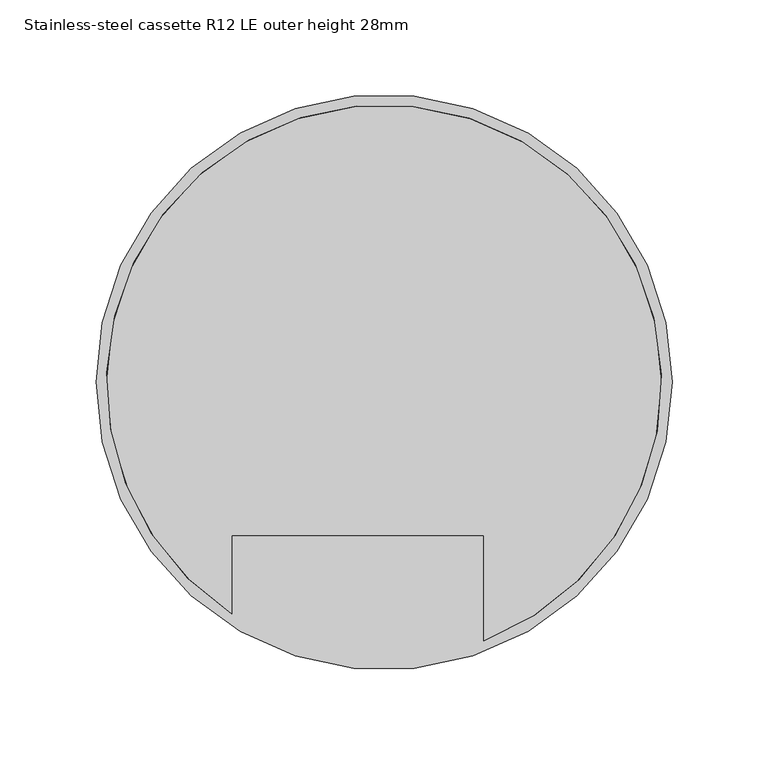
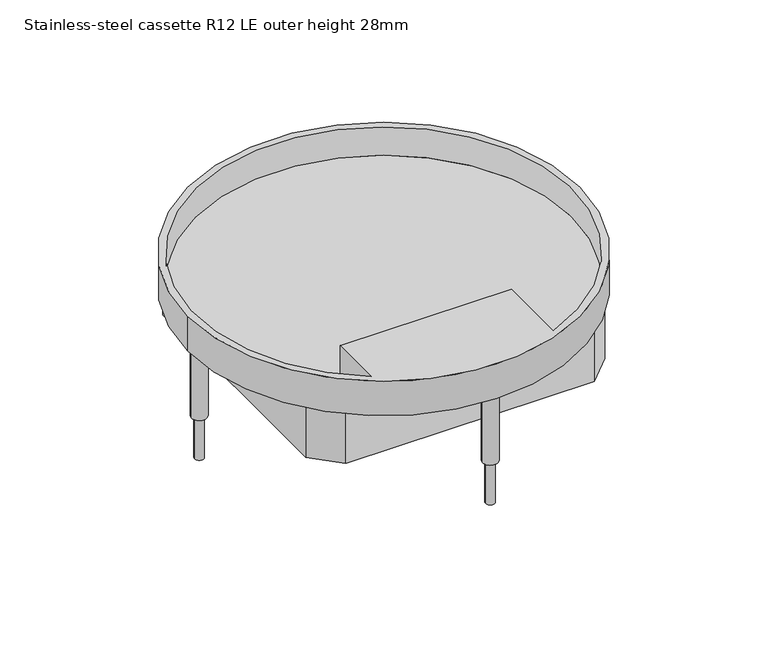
"""IFC4 building model written with IfcOpenShell, lengths in millimetres: proxy geometry, Electrical_Installation_Hager_VE-EE_EKR-Height-adjustable-stainless-steel-cassette-with-square-cable-outlet-for-dry-cleaned-floors : Stainless-steel cassette R12 LE outer height 28mm."""

from ifc_helpers import new_model, si_unit, point, frame, frame_2d, origin, place, context, project, spatial, polyline, circle_curve, trimmed, segment, composite_curve, outline, extrude, source, transform, mapped, element, save
from ifc_brep_helpers import plane_surface, cylinder_surface, revolved_surface, advanced_brep


def stainless_steel_cassette_r12_le_outer_height_28mm_8af35c53(model_context):
    return source(origin(), model_context, "Body", "SolidModel", [
        extrude(outline(composite_curve([segment(trimmed(circle_curve(frame_2d((-141.3, 0.0)), 3.5), [point((-144.8, 0.0))], [point((-137.8, 0.0))], False, "CARTESIAN"), True, "CONTINUOUS"), segment(trimmed(circle_curve(frame_2d((-141.3, 0.0)), 3.5), [point((-137.8, 0.0))], [point((-144.8, 0.0))], False, "CARTESIAN"), True, "CONTINUOUS")], self_intersect=False)), frame((0.0, 0.0, -115.0), z_axis=(0.0, 0.0, 1.0), x_axis=(1.0, 0.0, 0.0)), (0.0, 0.0, 1.0), 89.011943),
        extrude(outline(composite_curve([segment(trimmed(circle_curve(frame_2d((0.0, 141.3)), 3.5), [point((-3.5, 141.3))], [point((3.5, 141.3))], False, "CARTESIAN"), True, "CONTINUOUS"), segment(trimmed(circle_curve(frame_2d((0.0, 141.3)), 3.5), [point((3.5, 141.3))], [point((-3.5, 141.3))], False, "CARTESIAN"), True, "CONTINUOUS")], self_intersect=False)), frame((0.0, 0.0, -115.0), z_axis=(0.0, 0.0, 1.0), x_axis=(1.0, 0.0, 0.0)), (0.0, 0.0, 1.0), 89.011943),
        extrude(outline(composite_curve([segment(trimmed(circle_curve(frame_2d((141.3, 0.0)), 3.548869), [point((137.751131, 0.0))], [point((144.848869, 0.0))], False, "CARTESIAN"), True, "CONTINUOUS"), segment(trimmed(circle_curve(frame_2d((141.3, 0.0)), 3.548869), [point((144.848869, 0.0))], [point((137.751131, 0.0))], False, "CARTESIAN"), True, "CONTINUOUS")], self_intersect=False)), frame((0.0, 0.0, -115.0), z_axis=(0.0, 0.0, 1.0), x_axis=(1.0, 0.0, 0.0)), (0.0, 0.0, 1.0), 89.011943),
        extrude(outline(composite_curve([segment(trimmed(circle_curve(frame_2d((0.0, -141.3)), 3.5), [point((-3.5, -141.3))], [point((3.5, -141.3))], False, "CARTESIAN"), True, "CONTINUOUS"), segment(trimmed(circle_curve(frame_2d((0.0, -141.3)), 3.5), [point((3.5, -141.3))], [point((-3.5, -141.3))], False, "CARTESIAN"), True, "CONTINUOUS")], self_intersect=False)), frame((0.0, 0.0, -115.0), z_axis=(0.0, 0.0, 1.0), x_axis=(1.0, 0.0, 0.0)), (0.0, 0.0, 1.0), 89.011943),
        advanced_brep(
        [(-144.5, 0.0, -20.988057), (-79.2284089, -120.8433251, -20.988057), (-79.2284089, -79.7709238, -20.988057), (51.8974749, -79.7709238, -20.988057), (51.8974749, -134.8588228, -20.988057), (144.5, 0.0, -20.988057), (-150.0, 0.0, -25.988057), (150.0, 0.0, -25.988057), (-150.0, 0.0, 2.011943), (150.0, 0.0, 2.011943), (-79.2284089, -120.8433251, 2.011943), (51.8974749, -134.8588228, 2.011943), (51.8974749, -79.7709238, 2.011943), (-79.2284089, -79.7709238, 2.011943)],
        [
            (0, 1, circle_curve(frame((0.0, 0.0, -20.988057), z_axis=(0.0, 0.0, 1.0), x_axis=(1.0, 0.0, 0.0)), 144.5)),
            (1, 2),
            (2, 3),
            (3, 4),
            (4, 5, circle_curve(frame((0.0, 0.0, -20.988057), z_axis=(0.0, 0.0, 1.0), x_axis=(1.0, 0.0, 0.0)), 144.5)),
            (5, 0, circle_curve(frame((0.0, 0.0, -20.988057), z_axis=(0.0, 0.0, 1.0), x_axis=(1.0, 0.0, 0.0)), 144.5)),
            (6, 7, circle_curve(frame((0.0, 0.0, -25.988057), z_axis=(0.0, 0.0, -1.0), x_axis=(1.0, 0.0, 0.0)), 150.0)),
            (7, 6, circle_curve(frame((0.0, 0.0, -25.988057), z_axis=(0.0, 0.0, -1.0), x_axis=(1.0, 0.0, 0.0)), 150.0)),
            (8, 9, circle_curve(frame((0.0, 0.0, 2.011943), z_axis=(0.0, 0.0, 1.0), x_axis=(1.0, 0.0, 0.0)), 150.0)),
            (9, 8, circle_curve(frame((0.0, 0.0, 2.011943), z_axis=(0.0, 0.0, 1.0), x_axis=(1.0, 0.0, 0.0)), 150.0)),
            (10, 11, circle_curve(frame((0.0, 0.0, 2.011943), z_axis=(0.0, 0.0, -1.0), x_axis=(1.0, 0.0, 0.0)), 144.5)),
            (11, 12),
            (12, 13),
            (13, 10),
            (8, 6),
            (7, 9),
            (10, 1),
            (4, 11),
            (3, 12),
            (2, 13),
        ],
        [
            plane_surface(frame((144.5, 0.0, -20.988057), z_axis=(0.0, 0.0, 1.0), x_axis=(0.0, 1.0, 0.0))),
            plane_surface(frame((144.5, 0.0, -25.988057), z_axis=(0.0, 0.0, -1.0), x_axis=(0.0, -1.0, 0.0))),
            plane_surface(frame((150.0, 0.0, 2.011943), z_axis=(0.0, 0.0, 1.0), x_axis=(0.0, 1.0, 0.0))),
            cylinder_surface(frame((0.0, 0.0, -25.988057), z_axis=(0.0, 0.0, 1.0), x_axis=(1.0, 0.0, 0.0)), 150.0),
            revolved_surface(polyline([(144.5, 0.0, -20.988057), (144.5, 0.0, 2.011943)]), (0.0, 0.0, 0.0), (0.0, 0.0, -1.0)),
            plane_surface(frame((51.8974749, -134.8588228, 2.011943), z_axis=(1.0, 0.0, 0.0), x_axis=(0.0, 0.0, -1.0))),
            plane_surface(frame((51.8974749, -79.7709238, 2.011943), z_axis=(0.0, 1.0, 0.0), x_axis=(0.0, 0.0, -1.0))),
            plane_surface(frame((-79.2284089, -79.7709238, 2.011943), z_axis=(-1.0, 0.0, 0.0), x_axis=(0.0, 0.0, -1.0))),
        ],
        [
            (0, [[1, 2, 3, 4, 5, 6]]),
            (1, [[7, 8]]),
            (2, [[9, 10], [11, 12, 13, 14]]),
            (3, [[-9, 15, -8, 16]]),
            (3, [[-10, -16, -7, -15]]),
            (4, [[-11, 17, -1, -6, -5, 18]]),
            (5, [[-12, -18, -4, 19]]),
            (6, [[-13, -19, -3, 20]]),
            (7, [[-14, -20, -2, -17]]),
        ],
    ),
        extrude(outline(polyline([(94.9818914, 114.5), (114.5, 94.9818914), (114.5, -94.9818914), (94.9818914, -114.5), (-94.9818914, -114.5), (-114.5, -94.9818914), (-114.5, 94.9818914), (-94.9818914, 114.5), (94.9818914, 114.5)]), holes=[polyline([(-111.5, 93.8602374), (-111.5, -93.8602374), (-93.8602374, -111.5), (93.8602374, -111.5), (111.5, -93.8602374), (111.5, 93.8602374), (93.8602374, 111.5), (-93.8602374, 111.5), (-111.5, 93.8602374)])]), frame((0.0, 0.0, -66.9295616), z_axis=(0.0, 0.0, 1.0), x_axis=(1.0, 0.0, 0.0)), (0.0, 0.0, 1.0), 40.9415046),
        extrude(outline(composite_curve([segment(trimmed(circle_curve(frame_2d((0.0, 141.3)), 5.9738904), [point((-5.9738904, 141.3))], [point((5.9738904, 141.3))], False, "CARTESIAN"), True, "CONTINUOUS"), segment(trimmed(circle_curve(frame_2d((0.0, 141.3)), 5.9738904), [point((5.9738904, 141.3))], [point((-5.9738904, 141.3))], False, "CARTESIAN"), True, "CONTINUOUS")], self_intersect=False)), frame((0.0, 0.0, -81.0371838), z_axis=(0.0, 0.0, 1.0), x_axis=(1.0, 0.0, 0.0)), (0.0, 0.0, 1.0), 55.0491267),
        extrude(outline(composite_curve([segment(trimmed(circle_curve(frame_2d((141.3, 0.0)), 6.0), [point((135.3, 0.0))], [point((147.3, 0.0))], False, "CARTESIAN"), True, "CONTINUOUS"), segment(trimmed(circle_curve(frame_2d((141.3, 0.0)), 6.0), [point((147.3, 0.0))], [point((135.3, 0.0))], False, "CARTESIAN"), True, "CONTINUOUS")], self_intersect=False)), frame((0.0, 0.0, -81.0371838), z_axis=(0.0, 0.0, 1.0), x_axis=(1.0, 0.0, 0.0)), (0.0, 0.0, 1.0), 55.0491267),
        extrude(outline(composite_curve([segment(trimmed(circle_curve(frame_2d((0.0, -141.3)), 6.0), [point((-6.0, -141.3))], [point((6.0, -141.3))], False, "CARTESIAN"), True, "CONTINUOUS"), segment(trimmed(circle_curve(frame_2d((0.0, -141.3)), 6.0), [point((6.0, -141.3))], [point((-6.0, -141.3))], False, "CARTESIAN"), True, "CONTINUOUS")], self_intersect=False)), frame((0.0, 0.0, -81.0371838), z_axis=(0.0, 0.0, 1.0), x_axis=(1.0, 0.0, 0.0)), (0.0, 0.0, 1.0), 55.0491267),
        extrude(outline(composite_curve([segment(trimmed(circle_curve(frame_2d((-141.3, 0.0)), 6.0), [point((-147.3, 0.0))], [point((-135.3, 0.0))], False, "CARTESIAN"), True, "CONTINUOUS"), segment(trimmed(circle_curve(frame_2d((-141.3, 0.0)), 6.0), [point((-135.3, 0.0))], [point((-147.3, 0.0))], False, "CARTESIAN"), True, "CONTINUOUS")], self_intersect=False)), frame((0.0, 0.0, -81.0371838), z_axis=(0.0, 0.0, 1.0), x_axis=(1.0, 0.0, 0.0)), (0.0, 0.0, 1.0), 55.0491267),
    ])


if __name__ == "__main__":
    model = new_model("IFC4")
    model_context = context("Model", 3, world=origin())
    ifc_project = project(units=[si_unit("LENGTHUNIT", "METRE", prefix="MILLI")], contexts=[model_context])
    site = spatial("IfcSite", under=ifc_project)
    building = spatial("IfcBuilding", under=site)
    placement = place(None, origin())
    stainless_steel_cassette_r12_le_outer_height_28mm_shape = stainless_steel_cassette_r12_le_outer_height_28mm_8af35c53(model_context)
    element("IfcBuildingElementProxy", 1, Name="Electrical_Installation_Hager_VE-EE_EKR-Height-adjustable-stainless-steel-cassette-with-square-cable-outlet-for-dry-cleaned-floors : Stainless-steel cassette R12 LE outer height 28mm", ObjectType="Electrical_Installation_Hager_VE-EE_EKR-Height-adjustable-stainless-steel-cassette-with-square-cable-outlet-for-dry-cleaned-floors : Stainless-steel cassette R12 LE outer height 28mm", at=placement, inside=building, context=model_context, shape_type="MappedRepresentation", body=[
        mapped(stainless_steel_cassette_r12_le_outer_height_28mm_shape, transform((0.0, 0.0, 0.0), x_axis=(1.0, 0.0, 0.0), y_axis=(0.0, 1.0, 0.0), z_axis=(0.0, 0.0, 1.0))),
    ])
    save(model, "model.ifc")
